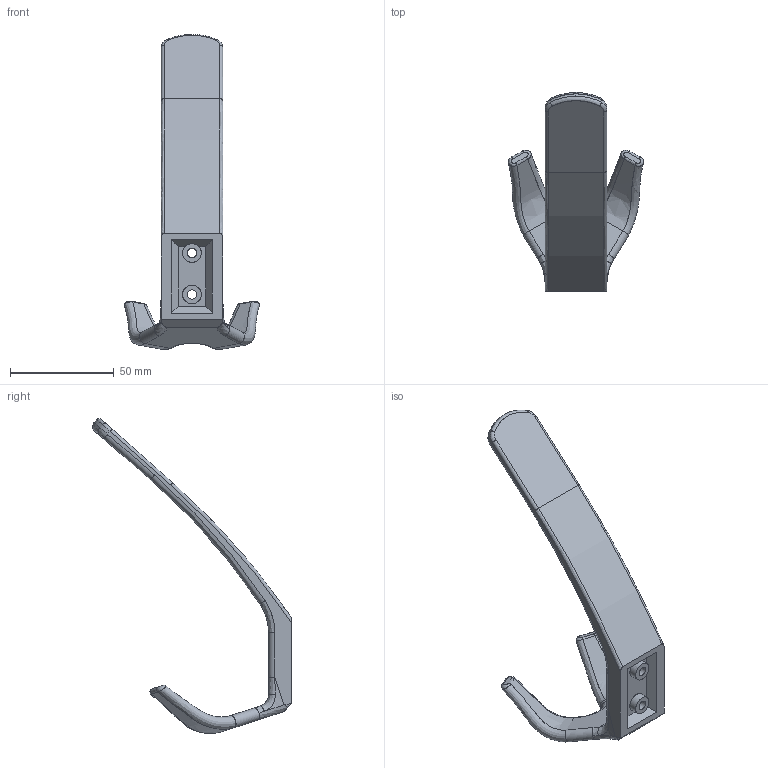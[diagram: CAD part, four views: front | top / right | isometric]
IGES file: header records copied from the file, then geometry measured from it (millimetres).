
Start section: C
Global section: file name: 0416.igs; native system: By Siemens PLM Incorporated; preprocessor: XPlus GENERIC/IGES 16.0.42; author: Author; organization: Title; date: 20231211.121153; units: millimetre
Bounding box: 65.23 x 95.9 x 151.96 mm (x, y, z)
Surface area: 18707.2 mm2 (no closed solid volume)
Topology: 0 solids, 0 shells, 89 faces, 443 edges, 440 vertices
Faces by surface type: bspline 89
